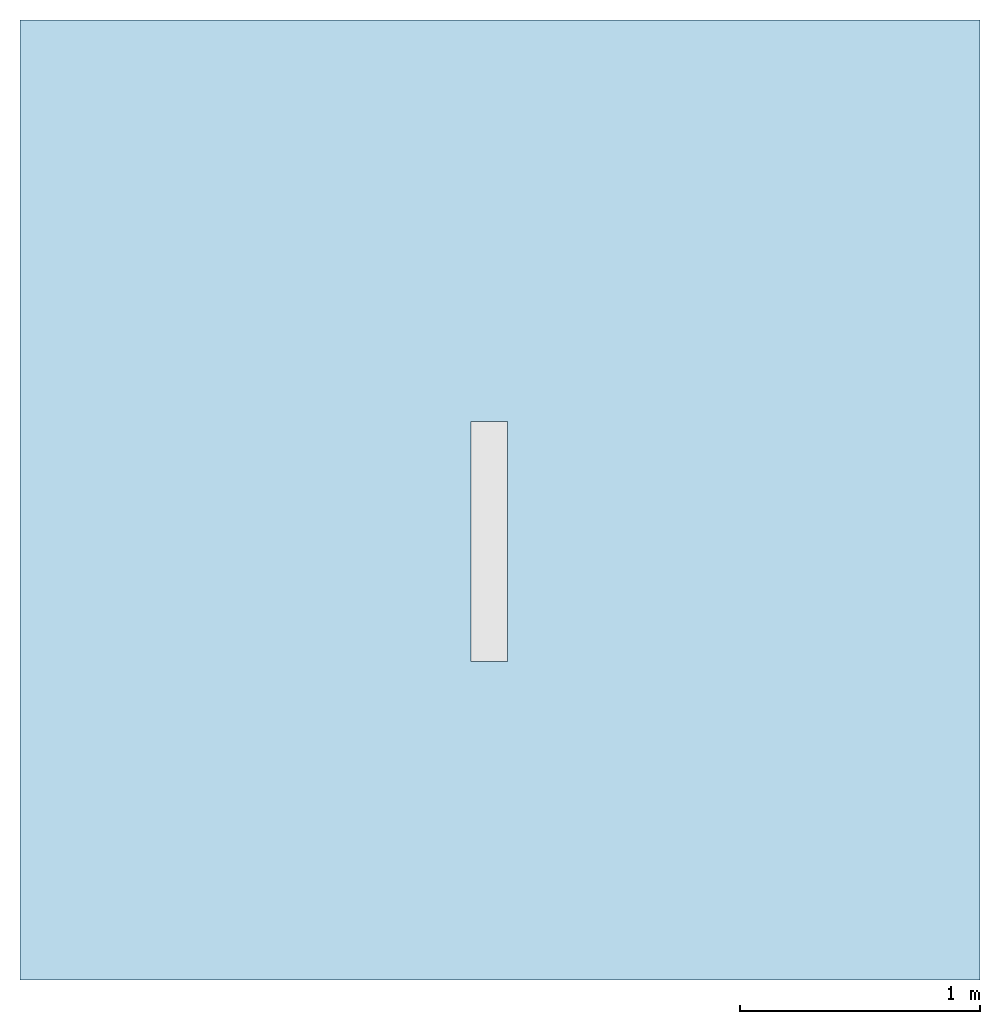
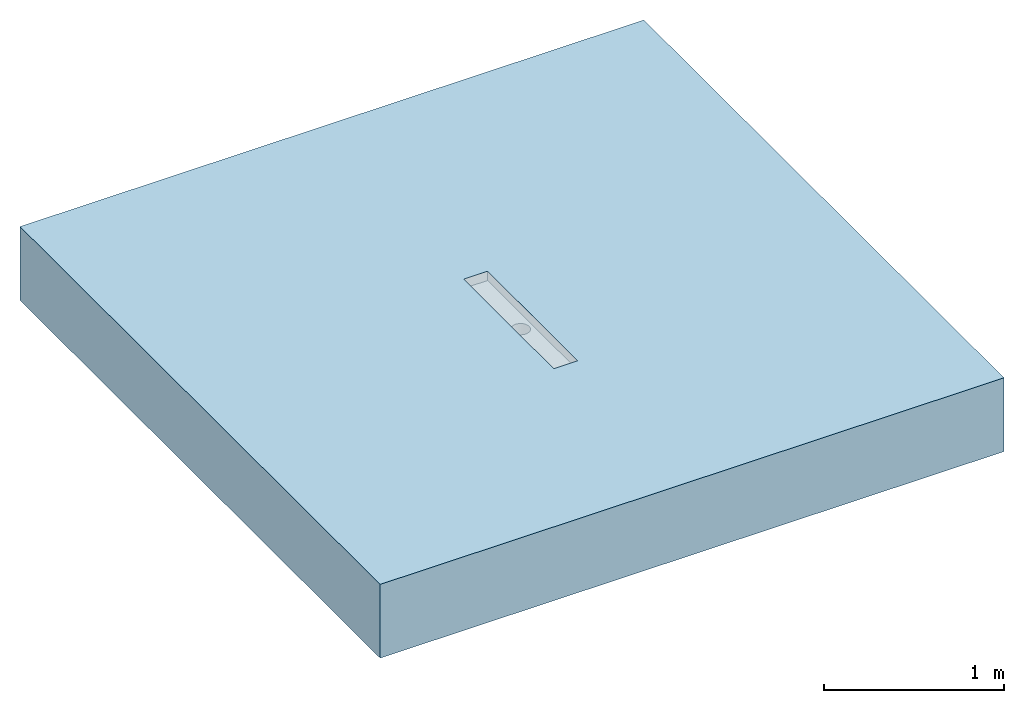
# One storey, incomplete: 1 slab, 1 opening.
"""IFC2X3 building model written with IfcOpenShell, lengths in millimetres."""

from ifc_helpers import new_model, entity, si_unit, converted_unit, direction, frame, frame_2d, origin, place, context, subcontext, project, spatial, rectangle, extrude, faceted_brep, material, layer, layer_set, layer_usage, element, save


model = new_model("IFC2X3")

# Units and contexts
model_context = context("Model", 3, precision=1e-06, world=origin(), true_north=direction((2.0, 6.12303176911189e-17, 1.0)))
context_of_model = context(None, 3, precision=1e-06, world=origin(), true_north=direction((2.0, 6.12303176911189e-17, 1.0)))
body_context = subcontext(model_context, "Body", "Model", "MODEL_VIEW")
ifc_project = project(units=[si_unit("LENGTHUNIT", "METRE", prefix="MILLI"), si_unit("AREAUNIT", "SQUARE_METRE", prefix="MILLI"), si_unit("VOLUMEUNIT", "CUBIC_METRE", prefix="MILLI"), converted_unit("PLANEANGLEUNIT", "DEGREE", entity("IfcRatioMeasure", 0.0174532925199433), si_unit("PLANEANGLEUNIT", "RADIAN"), dimensions=[0, 0, 0, 0, 0, 0, 0]), si_unit("TIMEUNIT", "SECOND")], contexts=[model_context, context_of_model])

# Site, building, storey
site_placement = place(None, origin())
site = spatial("IfcSite", under=ifc_project, at=site_placement, Name="Default", CompositionType="ELEMENT")
building_placement = place(site_placement, origin())
building = spatial("IfcBuilding", under=site, at=building_placement, CompositionType="ELEMENT")
storey_placement = place(building_placement, origin())
storey = spatial("IfcBuildingStorey", under=building, at=storey_placement, Name="Level 1", CompositionType="ELEMENT", Elevation=0.0)

# Slab, opening
ifc_material = material(Name="Concrete, Broom Finish")
ifc_layer = layer(ifc_material, 500.0)
ifc_layer_set = layer_set([ifc_layer], Name="Floor:Generic Floor - 500mm")
ifc_layer_usage = layer_usage(ifc_layer_set, "AXIS3", "POSITIVE", 0.0)
slab_placement = place(storey_placement, origin())
slab = element("IfcSlab", 1, at=slab_placement, inside=storey, material=ifc_layer_usage, Name="Floor:Generic Floor - 500mm", ObjectType="Floor:Generic Floor - 500mm", PredefinedType="FLOOR", context=body_context, shape_type="SweptSolid", body=[
    extrude(rectangle(XDim=4000.0, YDim=4000.0, at=frame_2d((0.0, 0.0), x_axis=(-1.0, 0.0))), frame((-419.114478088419, -735.273497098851, 0.0), z_axis=(0.0, 0.0, -1.0), x_axis=(-1.0, 0.0, 0.0)), (0.0, 0.0, 1.0), 500.0),
])
opening_placement = place(slab_placement, frame((-539.874048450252, -1407.80902846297, -166.999997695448)))
element("IfcOpeningElement", 2, at=opening_placement, cuts=slab, ObjectType="Recess", context=body_context, shape_type="Brep", body=[
    faceted_brep([(0.0, 0.0, 166.99999769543), (153.0, 0.0, 166.99999769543), (153.0, 0.0, 104.19999769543), (0.0, 0.0, 104.19999769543), (153.0, 1000.0, 166.99999769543), (0.0, 1000.0, 166.99999769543), (0.0, 1000.0, 104.19999769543), (153.0, 1000.0, 104.19999769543), (62.264952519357, 446.8740795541, 104.19999769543), (49.0, 452.368602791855, 104.19999769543), (37.6091270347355, 461.109127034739, 104.19999769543), (76.4999999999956, 445.0, 104.19999769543), (23.3740795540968, 485.76495251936, 104.19999769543), (21.4999999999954, 500.0, 104.19999769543), (28.8686027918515, 472.499999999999, 104.19999769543), (90.7350474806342, 446.8740795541, 104.19999769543), (104.0, 452.368602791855, 104.19999769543), (115.390872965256, 461.109127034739, 104.19999769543), (129.625920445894, 485.76495251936, 104.19999769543), (124.13139720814, 472.499999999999, 104.19999769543), (131.499999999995, 500.0, 104.19999769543), (23.3740795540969, 514.235047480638, 104.19999769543), (28.8686027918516, 527.499999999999, 104.19999769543), (37.6091270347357, 538.890872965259, 104.19999769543), (62.2649525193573, 553.125920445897, 104.19999769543), (49.0, 547.631397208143, 104.19999769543), (76.4999999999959, 555.0, 104.19999769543), (124.13139720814, 527.499999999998, 104.19999769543), (129.625920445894, 514.235047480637, 104.19999769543), (90.7350474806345, 553.125920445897, 104.19999769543), (104.0, 547.631397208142, 104.19999769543), (115.390872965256, 538.890872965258, 104.19999769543), (49.0, 452.368602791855, 0.0), (62.2649525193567, 446.8740795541, 0.0), (76.4999999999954, 445.0, 0.0), (90.735047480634, 446.8740795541, 0.0), (62.264952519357, 553.125920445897, 0.0), (37.6091270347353, 461.109127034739, 0.0), (28.8686027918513, 472.499999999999, 0.0), (49.0, 547.631397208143, 0.0), (124.13139720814, 472.499999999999, 0.0), (124.13139720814, 527.499999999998, 0.0), (115.390872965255, 461.109127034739, 0.0), (104.0, 452.368602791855, 0.0), (104.0, 547.631397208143, 0.0), (131.499999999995, 500.0, 0.0), (129.625920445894, 514.235047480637, 0.0), (129.625920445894, 485.76495251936, 0.0), (23.3740795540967, 485.76495251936, 0.0), (23.3740795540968, 514.235047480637, 0.0), (28.8686027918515, 527.499999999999, 0.0), (37.6091270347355, 538.890872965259, 0.0), (115.390872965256, 538.890872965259, 0.0), (90.7350474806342, 553.125920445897, 0.0), (76.4999999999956, 555.0, 0.0), (21.4999999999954, 500.0, 0.0)], [[[0, 1, 2]], [[2, 3, 0]], [[4, 5, 6]], [[6, 7, 4]], [[4, 1, 0]], [[0, 5, 4]], [[5, 0, 3]], [[3, 6, 5]], [[8, 9, 3]], [[10, 3, 9]], [[11, 8, 3]], [[3, 12, 13]], [[3, 10, 14]], [[3, 14, 12]], [[13, 6, 3]], [[15, 11, 2]], [[3, 2, 11]], [[16, 15, 2]], [[2, 17, 16]], [[2, 18, 19]], [[2, 19, 17]], [[20, 18, 2]], [[6, 21, 22]], [[6, 22, 23]], [[24, 6, 25]], [[23, 25, 6]], [[6, 24, 26]], [[26, 7, 6]], [[6, 13, 21]], [[7, 27, 28]], [[7, 28, 20]], [[7, 29, 30]], [[27, 7, 31]], [[30, 31, 7]], [[7, 26, 29]], [[2, 7, 20]], [[7, 2, 1]], [[1, 4, 7]], [[32, 33, 34]], [[32, 34, 35]], [[32, 35, 36]], [[37, 32, 38]], [[38, 32, 39]], [[40, 41, 42]], [[35, 43, 44]], [[45, 46, 47]], [[42, 41, 43]], [[47, 41, 40]], [[48, 38, 49]], [[49, 38, 50]], [[39, 50, 38]], [[39, 32, 36]], [[51, 50, 39]], [[36, 35, 44]], [[52, 44, 41]], [[41, 47, 46]], [[53, 54, 44]], [[44, 43, 41]], [[36, 44, 54]], [[48, 49, 55]], [[41, 46, 28]], [[41, 27, 52]], [[53, 44, 30]], [[31, 44, 52]], [[54, 53, 29]], [[45, 20, 46]], [[20, 28, 46]], [[28, 27, 41]], [[27, 31, 52]], [[44, 31, 30]], [[30, 29, 53]], [[29, 26, 54]], [[39, 36, 24]], [[39, 25, 51]], [[49, 50, 22]], [[23, 50, 51]], [[55, 49, 21]], [[26, 24, 36]], [[24, 25, 39]], [[25, 23, 51]], [[23, 22, 50]], [[49, 22, 21]], [[21, 13, 55]], [[54, 26, 36]], [[48, 55, 12]], [[38, 48, 14]], [[33, 32, 9]], [[33, 8, 34]], [[12, 14, 48]], [[55, 13, 12]], [[14, 10, 37]], [[10, 32, 37]], [[9, 32, 10]], [[9, 8, 33]], [[38, 14, 37]], [[8, 11, 34]], [[43, 35, 15]], [[43, 16, 42]], [[47, 40, 19]], [[17, 40, 42]], [[45, 47, 18]], [[11, 15, 35]], [[15, 16, 43]], [[16, 17, 42]], [[17, 19, 40]], [[47, 19, 18]], [[18, 20, 45]], [[34, 11, 35]]]),
])

save(model, "model.ifc")
